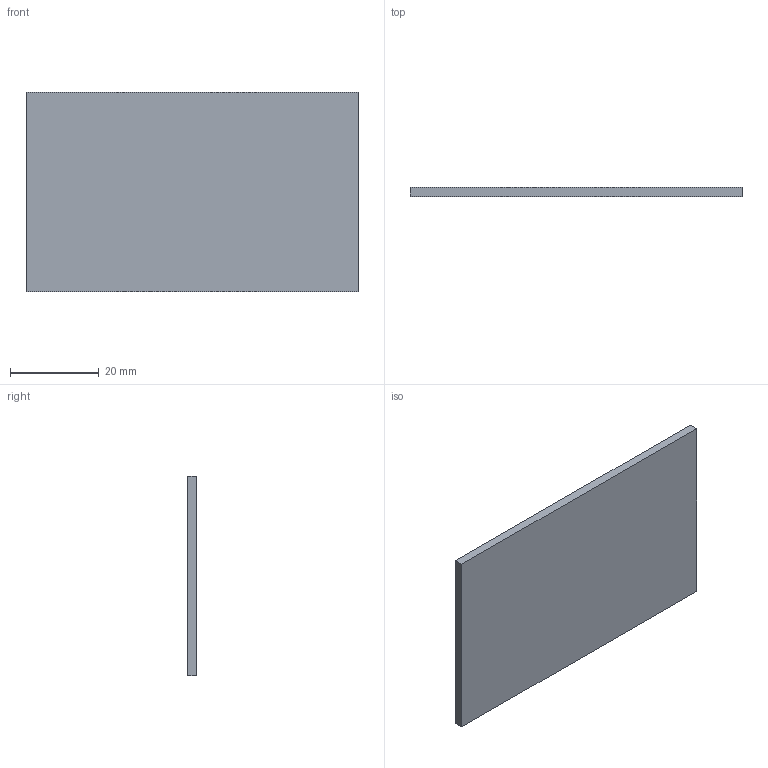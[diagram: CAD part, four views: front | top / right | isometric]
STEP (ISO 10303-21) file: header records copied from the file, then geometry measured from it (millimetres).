
FILE_DESCRIPTION(('Open CASCADE Model'),'2;1');
FILE_NAME('Open CASCADE Shape Model','2026-10-04T01:02:36',('Author'),( 'Open CASCADE'),'Open CASCADE STEP processor 8.0','Open CASCADE 8.0' ,'Unknown');
FILE_SCHEMA(('AUTOMOTIVE_DESIGN { 1 0 10303 214 1 1 1 1 }'));
Length unit declared in the file: millimetre
Products named in the file (1): Open CASCADE STEP translator 8.0 407
Bounding box: 75 x 2 x 45 mm (x, y, z)
Volume: 6750 mm3; surface area: 7230 mm2
Topology: 1 solids, 1 shells, 6 faces, 12 edges, 8 vertices
Faces by surface type: plane 6
Entity records: 322 total; most frequent: CARTESIAN_POINT 51, DIRECTION 50, LINE 36, VECTOR 36, ORIENTED_EDGE 24, PCURVE 24, DEFINITIONAL_REPRESENTATION 24, EDGE_CURVE 12
